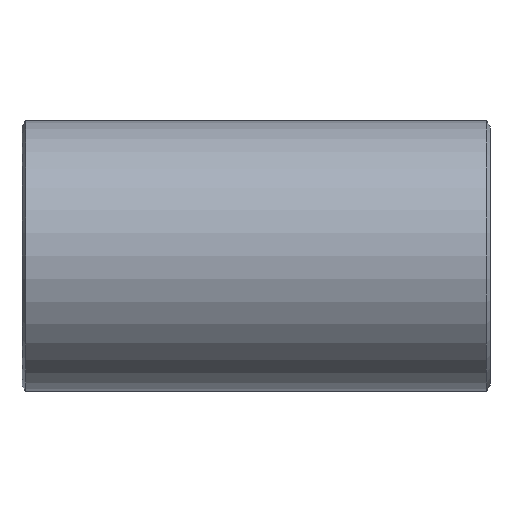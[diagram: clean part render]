
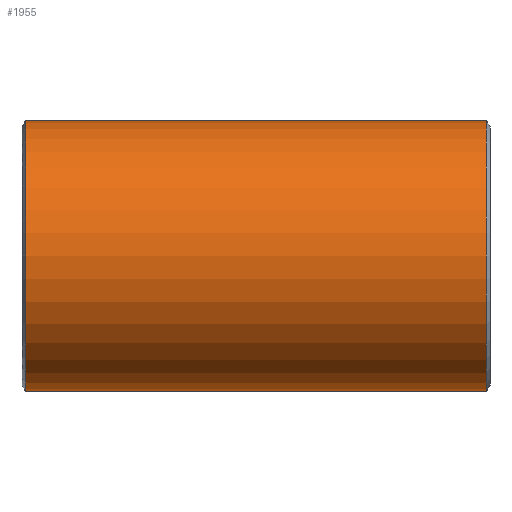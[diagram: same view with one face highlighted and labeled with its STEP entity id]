
A CAD part, front view. The second image highlights one B-rep face of the part: STEP entity #1955.
In plain terms, the highlighted cylindrical face has radius 82.6 mm (diameter 165.2 mm), a partial arc.
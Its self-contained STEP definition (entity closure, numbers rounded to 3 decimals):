
#6 = ORIENTED_EDGE ( 'NONE', *, *, #2406, .F. ) ;
#179 = ORIENTED_EDGE ( 'NONE', *, *, #1279, .F. ) ;
#339 = DIRECTION ( 'NONE',  ( 0., 0., 1. ) ) ;
#397 = CARTESIAN_POINT ( 'NONE',  ( 140.734, 0., 0. ) ) ;
#408 = AXIS2_PLACEMENT_3D ( 'NONE', #397, #2299, #1921 ) ;
#431 = LINE ( 'NONE', #1207, #1512 ) ;
#432 = CYLINDRICAL_SURFACE ( 'NONE', #1554, 82.6 ) ;
#520 = CARTESIAN_POINT ( 'NONE',  ( -140.734, 0., 0. ) ) ;
#521 = VERTEX_POINT ( 'NONE', #1318 ) ;
#534 = AXIS2_PLACEMENT_3D ( 'NONE', #520, #905, #339 ) ;
#648 = FACE_OUTER_BOUND ( 'NONE', #2467, .T. ) ;
#678 = CARTESIAN_POINT ( 'NONE',  ( -140.734, 0., 82.6 ) ) ;
#774 = CARTESIAN_POINT ( 'NONE',  ( 140.734, 0., -82.6 ) ) ;
#905 = DIRECTION ( 'NONE',  ( -1., 0., 0. ) ) ;
#927 = CARTESIAN_POINT ( 'NONE',  ( 140.734, 0., 82.6 ) ) ;
#1185 = LINE ( 'NONE', #1538, #2183 ) ;
#1207 = CARTESIAN_POINT ( 'NONE',  ( 142.9, 0., -82.6 ) ) ;
#1208 = CARTESIAN_POINT ( 'NONE',  ( 142.9, 0., 0. ) ) ;
#1279 = EDGE_CURVE ( 'NONE', #521, #2405, #1672, .T. ) ;
#1318 = CARTESIAN_POINT ( 'NONE',  ( -140.734, 0., -82.6 ) ) ;
#1365 = EDGE_CURVE ( 'NONE', #1652, #2405, #1185, .T. ) ;
#1500 = ORIENTED_EDGE ( 'NONE', *, *, #1605, .T. ) ;
#1512 = VECTOR ( 'NONE', #1986, 1000. ) ;
#1538 = CARTESIAN_POINT ( 'NONE',  ( 142.9, 0., 82.6 ) ) ;
#1554 = AXIS2_PLACEMENT_3D ( 'NONE', #1208, #1970, #2150 ) ;
#1605 = EDGE_CURVE ( 'NONE', #1663, #1652, #2098, .T. ) ;
#1652 = VERTEX_POINT ( 'NONE', #927 ) ;
#1663 = VERTEX_POINT ( 'NONE', #774 ) ;
#1672 = CIRCLE ( 'NONE', #534, 82.6 ) ;
#1708 = DIRECTION ( 'NONE',  ( -1., 0., 0. ) ) ;
#1824 = ORIENTED_EDGE ( 'NONE', *, *, #1365, .T. ) ;
#1921 = DIRECTION ( 'NONE',  ( 0., 0., 1. ) ) ;
#1955 = ADVANCED_FACE ( 'NONE', ( #648 ), #432, .T. ) ;
#1970 = DIRECTION ( 'NONE',  ( -1., 0., 0. ) ) ;
#1986 = DIRECTION ( 'NONE',  ( -1., 0., 0. ) ) ;
#2098 = CIRCLE ( 'NONE', #408, 82.6 ) ;
#2150 = DIRECTION ( 'NONE',  ( 0., 0., 1. ) ) ;
#2183 = VECTOR ( 'NONE', #1708, 1000. ) ;
#2299 = DIRECTION ( 'NONE',  ( -1., 0., 0. ) ) ;
#2405 = VERTEX_POINT ( 'NONE', #678 ) ;
#2406 = EDGE_CURVE ( 'NONE', #1663, #521, #431, .T. ) ;
#2467 = EDGE_LOOP ( 'NONE', ( #6, #1500, #1824, #179 ) ) ;
